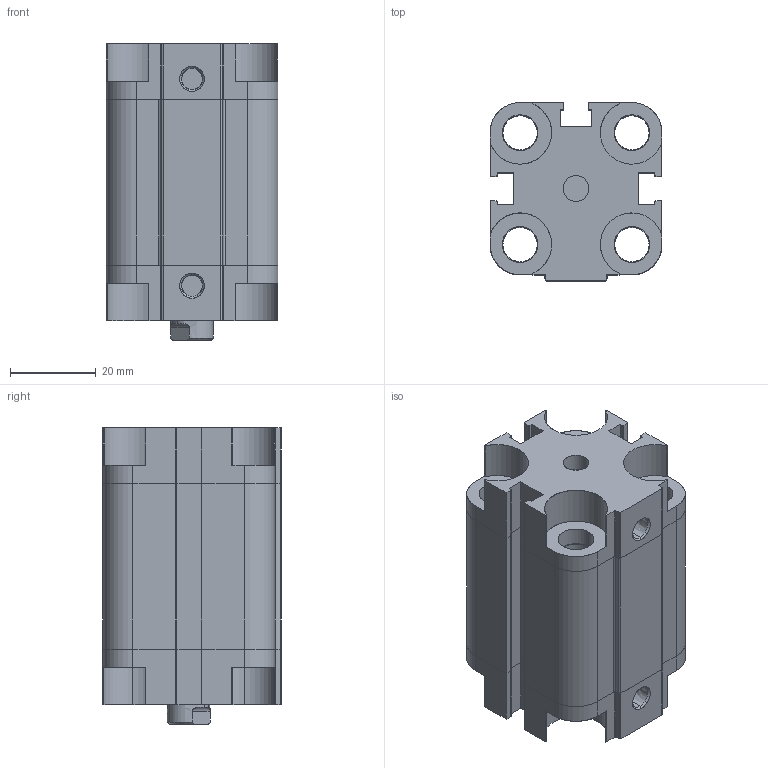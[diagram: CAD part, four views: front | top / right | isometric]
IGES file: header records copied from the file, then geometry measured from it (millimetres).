
Start section: SolidWorks IGES file using analytic representation for surfaces
Global section: file name: D:\ARICA 3D 禽Z軲LER\3D IGES\ADVU\ADVU 25\ADVU25X25-CYLINDER.IGS,1; native system: 5HSolidWorks 2013; preprocessor: SolidWorks 2013; author: user; date: 150520.141037; units: millimetre
Bounding box: 40 x 41.5 x 69 mm (x, y, z)
Surface area: 34042.8 mm2 (no closed solid volume)
Topology: 0 solids, 0 shells, 338 faces, 5510 edges, 5509 vertices
Faces by surface type: revolution 192, bspline 146
